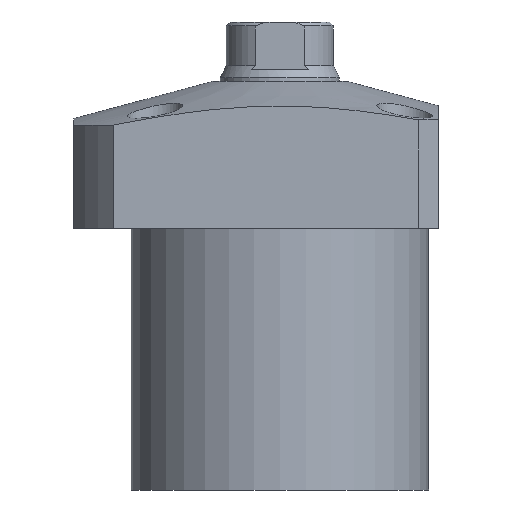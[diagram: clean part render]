
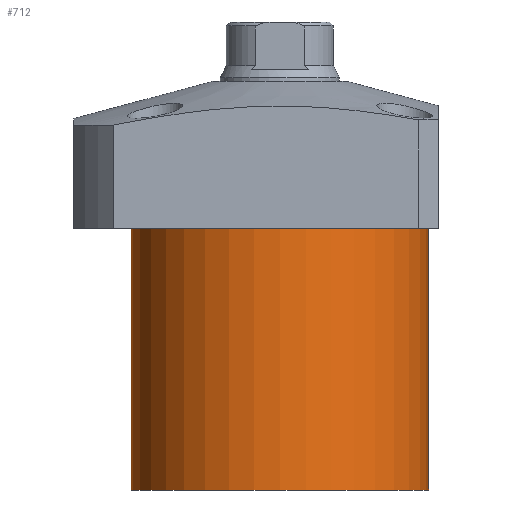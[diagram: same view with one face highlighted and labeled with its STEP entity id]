
A CAD part, front view. The second image highlights one B-rep face of the part: STEP entity #712.
In plain terms, the highlighted cylindrical face has radius 37.5 mm (diameter 75 mm), a partial arc.
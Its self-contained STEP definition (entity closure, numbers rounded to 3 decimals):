
#187 = ORIENTED_EDGE ( 'NONE', *, *, #1893, .F. ) ;
#255 = CARTESIAN_POINT ( 'NONE',  ( 0., 0., -18.5 ) ) ;
#286 = DIRECTION ( 'NONE',  ( 1., 0., 0. ) ) ;
#449 = ORIENTED_EDGE ( 'NONE', *, *, #1388, .T. ) ;
#467 = DIRECTION ( 'NONE',  ( 1., 0., 0. ) ) ;
#559 = LINE ( 'NONE', #1296, #1339 ) ;
#591 = ORIENTED_EDGE ( 'NONE', *, *, #2268, .F. ) ;
#645 = FACE_OUTER_BOUND ( 'NONE', #2380, .T. ) ;
#667 = AXIS2_PLACEMENT_3D ( 'NONE', #255, #868, #467 ) ;
#712 = ADVANCED_FACE ( 'NONE', ( #645 ), #1945, .T. ) ;
#866 = CIRCLE ( 'NONE', #2101, 37.5 ) ;
#868 = DIRECTION ( 'NONE',  ( 0., 0., -1. ) ) ;
#1062 = DIRECTION ( 'NONE',  ( 0., 0., 1. ) ) ;
#1150 = VECTOR ( 'NONE', #2245, 1000. ) ;
#1194 = CIRCLE ( 'NONE', #667, 37.5 ) ;
#1211 = LINE ( 'NONE', #1644, #1150 ) ;
#1249 = ORIENTED_EDGE ( 'NONE', *, *, #2548, .T. ) ;
#1296 = CARTESIAN_POINT ( 'NONE',  ( -37.5, 0., -84.5 ) ) ;
#1339 = VECTOR ( 'NONE', #1685, 1000. ) ;
#1340 = VERTEX_POINT ( 'NONE', #1462 ) ;
#1388 = EDGE_CURVE ( 'NONE', #1340, #1498, #1211, .T. ) ;
#1462 = CARTESIAN_POINT ( 'NONE',  ( 37.5, 0., -84.5 ) ) ;
#1498 = VERTEX_POINT ( 'NONE', #2099 ) ;
#1639 = CARTESIAN_POINT ( 'NONE',  ( -37.5, 0., -18.5 ) ) ;
#1644 = CARTESIAN_POINT ( 'NONE',  ( 37.5, 0., -84.5 ) ) ;
#1655 = CARTESIAN_POINT ( 'NONE',  ( -37.5, 0., -84.5 ) ) ;
#1685 = DIRECTION ( 'NONE',  ( 0., 0., 1. ) ) ;
#1843 = DIRECTION ( 'NONE',  ( 0., 0., -1. ) ) ;
#1849 = VERTEX_POINT ( 'NONE', #1655 ) ;
#1865 = DIRECTION ( 'NONE',  ( -1., 0., 0. ) ) ;
#1893 = EDGE_CURVE ( 'NONE', #1340, #1849, #866, .T. ) ;
#1910 = VERTEX_POINT ( 'NONE', #1639 ) ;
#1945 = CYLINDRICAL_SURFACE ( 'NONE', #2312, 37.5 ) ;
#2099 = CARTESIAN_POINT ( 'NONE',  ( 37.5, 0., -18.5 ) ) ;
#2101 = AXIS2_PLACEMENT_3D ( 'NONE', #2446, #1843, #1865 ) ;
#2245 = DIRECTION ( 'NONE',  ( 0., 0., 1. ) ) ;
#2268 = EDGE_CURVE ( 'NONE', #1849, #1910, #559, .T. ) ;
#2312 = AXIS2_PLACEMENT_3D ( 'NONE', #2453, #1062, #286 ) ;
#2380 = EDGE_LOOP ( 'NONE', ( #591, #187, #449, #1249 ) ) ;
#2446 = CARTESIAN_POINT ( 'NONE',  ( 0., 0., -84.5 ) ) ;
#2453 = CARTESIAN_POINT ( 'NONE',  ( 0., 0., -84.5 ) ) ;
#2548 = EDGE_CURVE ( 'NONE', #1498, #1910, #1194, .T. ) ;
